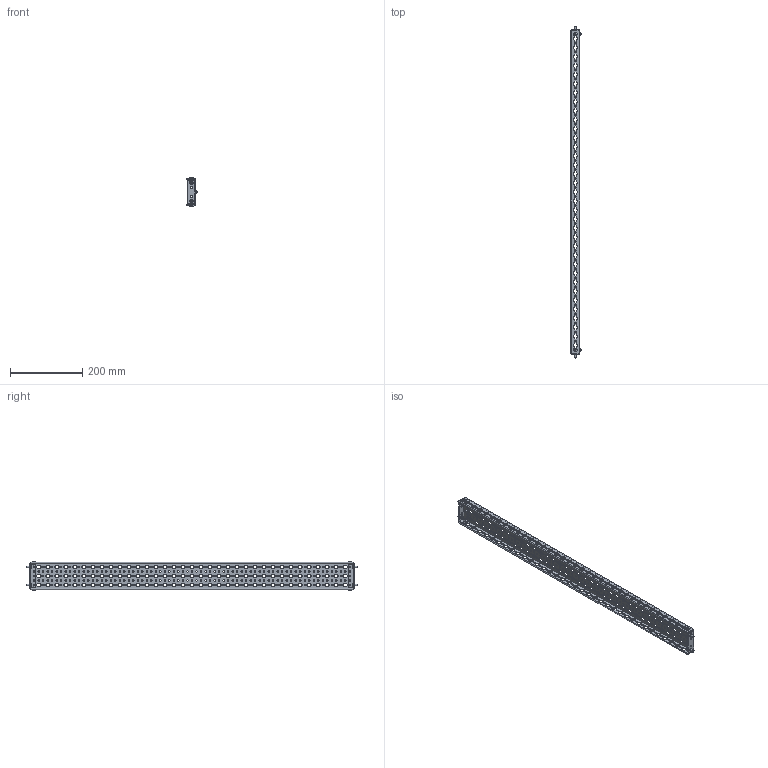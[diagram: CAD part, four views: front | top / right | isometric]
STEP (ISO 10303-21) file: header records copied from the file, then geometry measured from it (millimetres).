
FILE_DESCRIPTION(('Open CASCADE Model'),'2;1');
FILE_NAME('Open CASCADE Shape Model','2025-01-16T16:22:08',('Author'),( 'Open CASCADE'),'Open CASCADE STEP processor 7.8','Open CASCADE 7.8' ,'Unknown');
FILE_SCHEMA(('AUTOMOTIVE_DESIGN { 1 0 10303 214 1 1 1 1 }'));
Products named in the file (1): Solid1
Bounding box: 28.56 x 920 x 82.12 mm (x, y, z)
Volume: 163041 mm3; surface area: 234757.4 mm2
Topology: 7 solids, 7 shells, 4043 faces, 11915 edges, 7888 vertices
Faces by surface type: cylinder 2641, plane 1302, torus 40, cone 20, bspline 20, sphere 20
Full cylindrical faces by diameter (mm): 5 x16
Entity records: 142077 total; most frequent: CARTESIAN_POINT 27203, DIRECTION 25309, ORIENTED_EDGE 23790, EDGE_CURVE 11895, AXIS2_PLACEMENT_3D 9506, VERTEX_POINT 7888, LINE 6297, VECTOR 6297
